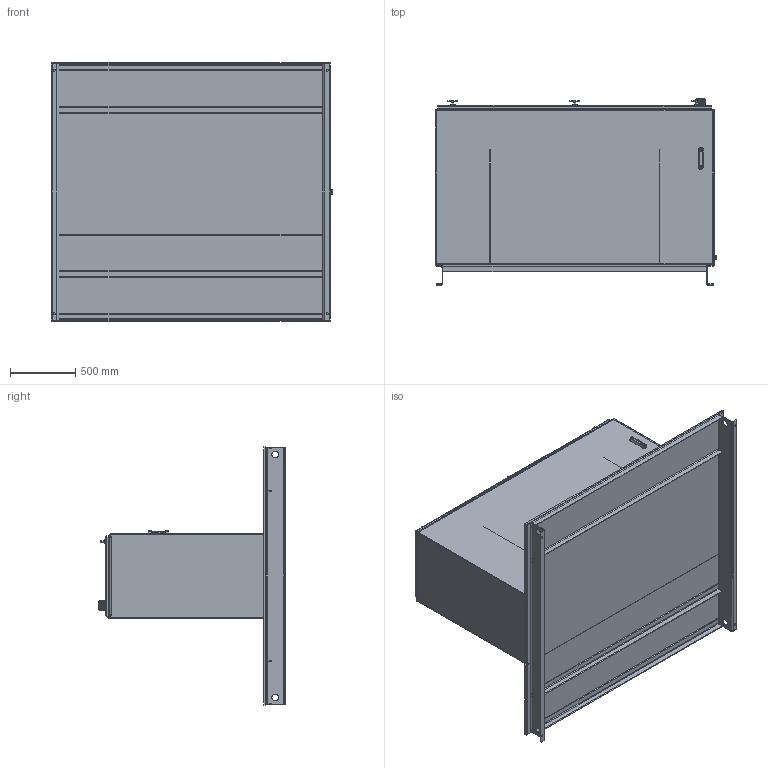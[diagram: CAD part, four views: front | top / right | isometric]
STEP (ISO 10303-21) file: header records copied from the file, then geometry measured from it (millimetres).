
FILE_DESCRIPTION (( 'STEP AP203' ), '1' );
FILE_NAME ('RTP300-HT.STEP', '2015-01-07T19:20:05', ( '' ), ( '' ), 'SwSTEP 2.0', 'SolidWorks 2014', '' );
FILE_SCHEMA (( 'CONFIG_CONTROL_DESIGN' ));
Products named in the file (1): RTP300-HT
Bounding box: 2152.65 x 1426.39 x 1974.85 mm (x, y, z)
Volume: 101918057 mm3; surface area: 31114708.4 mm2
Topology: 65 solids, 243 shells, 3182 faces, 6994 edges, 4251 vertices
Faces by surface type: plane 1330, cylinder 1158, torus 407, bspline 136, cone 96, sphere 55
Entity records: 95355 total; most frequent: CARTESIAN_POINT 24851, DIRECTION 15570, ORIENTED_EDGE 13868, EDGE_CURVE 6934, AXIS2_PLACEMENT_3D 6058, VERTEX_POINT 4233, LINE 3454, VECTOR 3454
